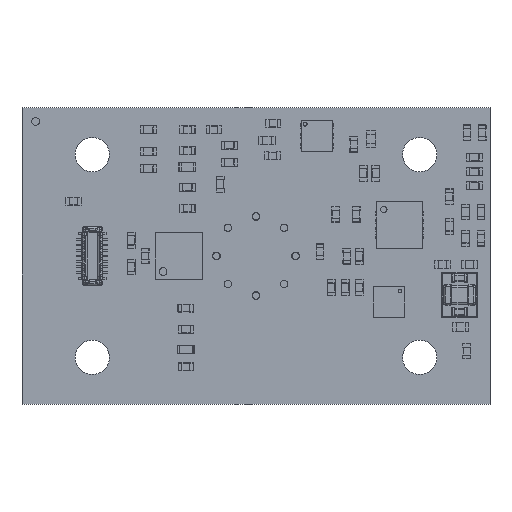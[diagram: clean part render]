
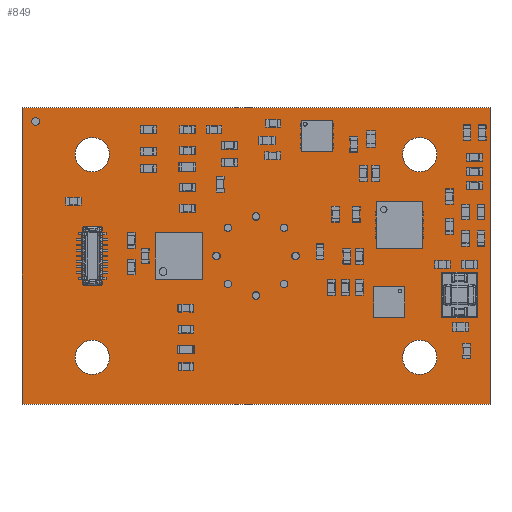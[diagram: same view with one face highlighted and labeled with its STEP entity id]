
A CAD part, top view. The second image highlights one B-rep face of the part: STEP entity #849.
In plain terms, the highlighted planar face has unit normal (0, 0, 1).
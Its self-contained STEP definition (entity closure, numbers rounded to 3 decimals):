
#288 = VERTEX_POINT('',#289);
#289 = CARTESIAN_POINT('',(-15.,-9.5,1.85));
#295 = EDGE_CURVE('',#288,#296,#298,.T.);
#296 = VERTEX_POINT('',#297);
#297 = CARTESIAN_POINT('',(15.,-9.5,1.85));
#298 = LINE('',#299,#300);
#299 = CARTESIAN_POINT('',(-15.,-9.5,1.85));
#300 = VECTOR('',#301,1.);
#301 = DIRECTION('',(1.,0.,0.));
#326 = EDGE_CURVE('',#296,#327,#329,.T.);
#327 = VERTEX_POINT('',#328);
#328 = CARTESIAN_POINT('',(15.,9.5,1.85));
#329 = LINE('',#330,#331);
#330 = CARTESIAN_POINT('',(15.,-9.5,1.85));
#331 = VECTOR('',#332,1.);
#332 = DIRECTION('',(0.,1.,0.));
#357 = EDGE_CURVE('',#327,#358,#360,.T.);
#358 = VERTEX_POINT('',#359);
#359 = CARTESIAN_POINT('',(-15.,9.5,1.85));
#360 = LINE('',#361,#362);
#361 = CARTESIAN_POINT('',(15.,9.5,1.85));
#362 = VECTOR('',#363,1.);
#363 = DIRECTION('',(-1.,0.,0.));
#388 = EDGE_CURVE('',#358,#288,#389,.T.);
#389 = LINE('',#390,#391);
#390 = CARTESIAN_POINT('',(-15.,9.5,1.85));
#391 = VECTOR('',#392,1.);
#392 = DIRECTION('',(0.,-1.,0.));
#412 = VERTEX_POINT('',#413);
#413 = CARTESIAN_POINT('',(-9.4,-6.5,1.85));
#419 = EDGE_CURVE('',#412,#412,#420,.T.);
#420 = CIRCLE('',#421,1.1);
#421 = AXIS2_PLACEMENT_3D('',#422,#423,#424);
#422 = CARTESIAN_POINT('',(-10.5,-6.5,1.85));
#423 = DIRECTION('',(0.,0.,1.));
#424 = DIRECTION('',(1.,0.,0.));
#445 = VERTEX_POINT('',#446);
#446 = CARTESIAN_POINT('',(-1.546,-1.796,1.85));
#452 = EDGE_CURVE('',#445,#445,#453,.T.);
#453 = CIRCLE('',#454,0.25);
#454 = AXIS2_PLACEMENT_3D('',#455,#456,#457);
#455 = CARTESIAN_POINT('',(-1.796,-1.796,1.85));
#456 = DIRECTION('',(0.,0.,1.));
#457 = DIRECTION('',(1.,0.,0.));
#478 = VERTEX_POINT('',#479);
#479 = CARTESIAN_POINT('',(-2.29,0.,1.85));
#485 = EDGE_CURVE('',#478,#478,#486,.T.);
#486 = CIRCLE('',#487,0.25);
#487 = AXIS2_PLACEMENT_3D('',#488,#489,#490);
#488 = CARTESIAN_POINT('',(-2.54,0.,1.85));
#489 = DIRECTION('',(0.,0.,1.));
#490 = DIRECTION('',(1.,0.,0.));
#511 = VERTEX_POINT('',#512);
#512 = CARTESIAN_POINT('',(-9.4,6.5,1.85));
#518 = EDGE_CURVE('',#511,#511,#519,.T.);
#519 = CIRCLE('',#520,1.1);
#520 = AXIS2_PLACEMENT_3D('',#521,#522,#523);
#521 = CARTESIAN_POINT('',(-10.5,6.5,1.85));
#522 = DIRECTION('',(0.,0.,1.));
#523 = DIRECTION('',(1.,0.,0.));
#544 = VERTEX_POINT('',#545);
#545 = CARTESIAN_POINT('',(-1.546,1.796,1.85));
#551 = EDGE_CURVE('',#544,#544,#552,.T.);
#552 = CIRCLE('',#553,0.25);
#553 = AXIS2_PLACEMENT_3D('',#554,#555,#556);
#554 = CARTESIAN_POINT('',(-1.796,1.796,1.85));
#555 = DIRECTION('',(0.,0.,1.));
#556 = DIRECTION('',(1.,0.,0.));
#577 = VERTEX_POINT('',#578);
#578 = CARTESIAN_POINT('',(0.25,2.54,1.85));
#584 = EDGE_CURVE('',#577,#577,#585,.T.);
#585 = CIRCLE('',#586,0.25);
#586 = AXIS2_PLACEMENT_3D('',#587,#588,#589);
#587 = CARTESIAN_POINT('',(0.,2.54,1.85));
#588 = DIRECTION('',(0.,0.,1.));
#589 = DIRECTION('',(1.,0.,0.));
#610 = VERTEX_POINT('',#611);
#611 = CARTESIAN_POINT('',(0.25,-2.54,1.85));
#617 = EDGE_CURVE('',#610,#610,#618,.T.);
#618 = CIRCLE('',#619,0.25);
#619 = AXIS2_PLACEMENT_3D('',#620,#621,#622);
#620 = CARTESIAN_POINT('',(0.,-2.54,1.85));
#621 = DIRECTION('',(0.,0.,1.));
#622 = DIRECTION('',(1.,0.,0.));
#643 = VERTEX_POINT('',#644);
#644 = CARTESIAN_POINT('',(11.6,-6.5,1.85));
#650 = EDGE_CURVE('',#643,#643,#651,.T.);
#651 = CIRCLE('',#652,1.1);
#652 = AXIS2_PLACEMENT_3D('',#653,#654,#655);
#653 = CARTESIAN_POINT('',(10.5,-6.5,1.85));
#654 = DIRECTION('',(0.,0.,1.));
#655 = DIRECTION('',(1.,0.,0.));
#676 = VERTEX_POINT('',#677);
#677 = CARTESIAN_POINT('',(2.046,-1.796,1.85));
#683 = EDGE_CURVE('',#676,#676,#684,.T.);
#684 = CIRCLE('',#685,0.25);
#685 = AXIS2_PLACEMENT_3D('',#686,#687,#688);
#686 = CARTESIAN_POINT('',(1.796,-1.796,1.85));
#687 = DIRECTION('',(0.,0.,1.));
#688 = DIRECTION('',(1.,0.,0.));
#709 = VERTEX_POINT('',#710);
#710 = CARTESIAN_POINT('',(2.046,1.796,1.85));
#716 = EDGE_CURVE('',#709,#709,#717,.T.);
#717 = CIRCLE('',#718,0.25);
#718 = AXIS2_PLACEMENT_3D('',#719,#720,#721);
#719 = CARTESIAN_POINT('',(1.796,1.796,1.85));
#720 = DIRECTION('',(0.,0.,1.));
#721 = DIRECTION('',(1.,0.,0.));
#742 = VERTEX_POINT('',#743);
#743 = CARTESIAN_POINT('',(2.79,0.,1.85));
#749 = EDGE_CURVE('',#742,#742,#750,.T.);
#750 = CIRCLE('',#751,0.25);
#751 = AXIS2_PLACEMENT_3D('',#752,#753,#754);
#752 = CARTESIAN_POINT('',(2.54,0.,1.85));
#753 = DIRECTION('',(0.,0.,1.));
#754 = DIRECTION('',(1.,0.,0.));
#775 = VERTEX_POINT('',#776);
#776 = CARTESIAN_POINT('',(11.6,6.5,1.85));
#782 = EDGE_CURVE('',#775,#775,#783,.T.);
#783 = CIRCLE('',#784,1.1);
#784 = AXIS2_PLACEMENT_3D('',#785,#786,#787);
#785 = CARTESIAN_POINT('',(10.5,6.5,1.85));
#786 = DIRECTION('',(0.,0.,1.));
#787 = DIRECTION('',(1.,0.,0.));
#849 = ADVANCED_FACE('',(#850,#856,#859,#862,#865,#868,#871,#874,#877,
    #880,#883,#886,#889),#892,.F.);
#850 = FACE_BOUND('',#851,.T.);
#851 = EDGE_LOOP('',(#852,#853,#854,#855));
#852 = ORIENTED_EDGE('',*,*,#295,.T.);
#853 = ORIENTED_EDGE('',*,*,#326,.T.);
#854 = ORIENTED_EDGE('',*,*,#357,.T.);
#855 = ORIENTED_EDGE('',*,*,#388,.T.);
#856 = FACE_BOUND('',#857,.F.);
#857 = EDGE_LOOP('',(#858));
#858 = ORIENTED_EDGE('',*,*,#419,.T.);
#859 = FACE_BOUND('',#860,.F.);
#860 = EDGE_LOOP('',(#861));
#861 = ORIENTED_EDGE('',*,*,#452,.T.);
#862 = FACE_BOUND('',#863,.F.);
#863 = EDGE_LOOP('',(#864));
#864 = ORIENTED_EDGE('',*,*,#485,.T.);
#865 = FACE_BOUND('',#866,.F.);
#866 = EDGE_LOOP('',(#867));
#867 = ORIENTED_EDGE('',*,*,#518,.T.);
#868 = FACE_BOUND('',#869,.F.);
#869 = EDGE_LOOP('',(#870));
#870 = ORIENTED_EDGE('',*,*,#551,.T.);
#871 = FACE_BOUND('',#872,.F.);
#872 = EDGE_LOOP('',(#873));
#873 = ORIENTED_EDGE('',*,*,#584,.T.);
#874 = FACE_BOUND('',#875,.F.);
#875 = EDGE_LOOP('',(#876));
#876 = ORIENTED_EDGE('',*,*,#617,.T.);
#877 = FACE_BOUND('',#878,.F.);
#878 = EDGE_LOOP('',(#879));
#879 = ORIENTED_EDGE('',*,*,#650,.T.);
#880 = FACE_BOUND('',#881,.F.);
#881 = EDGE_LOOP('',(#882));
#882 = ORIENTED_EDGE('',*,*,#683,.T.);
#883 = FACE_BOUND('',#884,.F.);
#884 = EDGE_LOOP('',(#885));
#885 = ORIENTED_EDGE('',*,*,#716,.T.);
#886 = FACE_BOUND('',#887,.F.);
#887 = EDGE_LOOP('',(#888));
#888 = ORIENTED_EDGE('',*,*,#749,.T.);
#889 = FACE_BOUND('',#890,.F.);
#890 = EDGE_LOOP('',(#891));
#891 = ORIENTED_EDGE('',*,*,#782,.T.);
#892 = PLANE('',#893);
#893 = AXIS2_PLACEMENT_3D('',#894,#895,#896);
#894 = CARTESIAN_POINT('',(-15.,-9.5,1.85));
#895 = DIRECTION('',(0.,0.,-1.));
#896 = DIRECTION('',(-1.,0.,0.));
